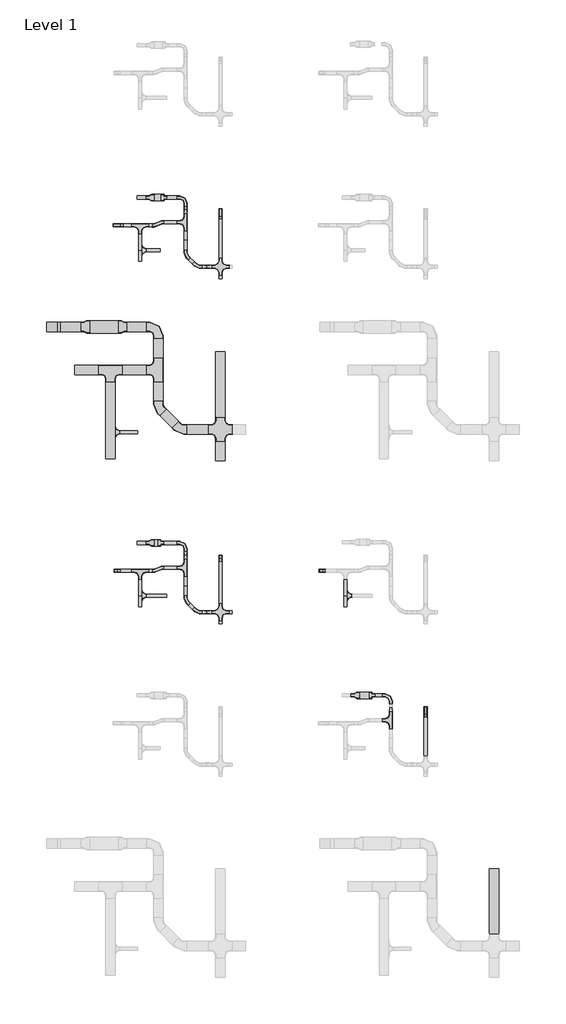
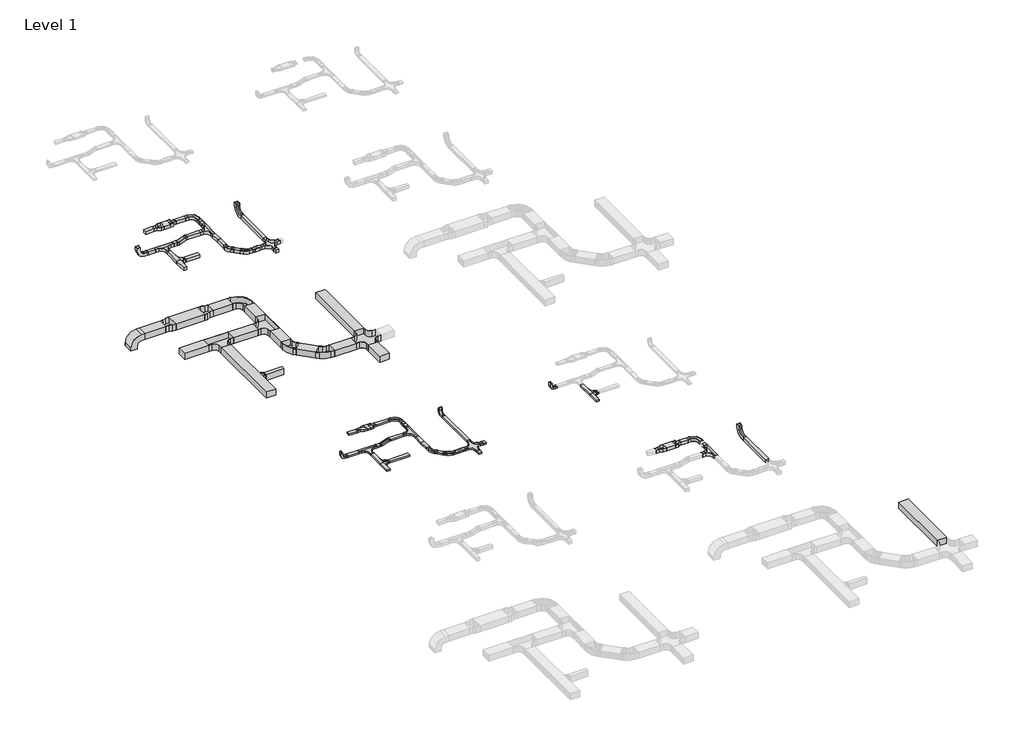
# One storey, part 2 of 7: 57 cable carrier segments, 46 cable carrier fittings.
"""IFC4 building model written with IfcOpenShell, lengths in millimetres."""

from ifc_helpers import new_model, si_unit, frame, origin, origin_with_axes, place, context, project, spatial, polyline, outline, extrude, transform, mapped, element, save
from components import cable_carrier_fitting_aaacfa07, cable_carrier_fitting_b0ef1419, cable_carrier_fitting_b06f5239, cable_carrier_fitting_c29a8226, cable_carrier_fitting_143960b7, cable_carrier_fitting_cc7a867a, cable_carrier_fitting_e87cdf85, cable_carrier_fitting_c2d22de5, cable_carrier_fitting_4de17e9c, cable_carrier_fitting_7e9f8960, cable_carrier_fitting_9eb58628, cable_carrier_fitting_43fa0a0a, cable_carrier_fitting_3d14474d, cable_carrier_fitting_1d79b922, cable_carrier_fitting_02b181c7, cable_carrier_fitting_d4cb8d73, cable_carrier_fitting_69659a00, cable_carrier_fitting_f591b558, cable_carrier_fitting_a9251f7c, cable_carrier_fitting_ed02f7b7, cable_carrier_fitting_6664680e, cable_carrier_fitting_91e97af7, cable_carrier_fitting_eaf42c59, cable_carrier_fitting_cb4cf4fc, cable_carrier_fitting_d9c8c3b4, cable_carrier_fitting_4019ad99, cable_carrier_fitting_a17deca8, rkh100_6825da00, rkh50_caab6538

model = new_model("IFC4")

# Units and contexts
model_context = context("Model", 3, world=origin())
ifc_project = project(units=[si_unit("LENGTHUNIT", "METRE", prefix="MILLI")], contexts=[model_context])

# Site, building, storey
site = spatial("IfcSite", under=ifc_project)
building = spatial("IfcBuilding", under=site)
storey = spatial("IfcBuildingStorey", under=building, Name="Level 1", Elevation=0.0)

# Cable carrier fittings
placement = place(None, origin())
cable_carrier_fitting_shape = cable_carrier_fitting_aaacfa07(model_context)
element("IfcCableCarrierFitting", 1, ObjectType="BAKS_Plate_connector : LZCH100", at=placement, inside=storey, context=model_context, shape_type="MappedRepresentation", body=[
    mapped(cable_carrier_fitting_shape, transform((-17370.1659964, 30949.0221963, 50.0), x_axis=(0.0, -1.0, 0.0), y_axis=(1.0, 0.0, 0.0), z_axis=(0.0, 0.0, 1.0))),
])
element("IfcCableCarrierFitting", 2, ObjectType="BAKS_Plate_connector : LZCH100", at=placement, inside=storey, context=model_context, shape_type="MappedRepresentation", body=[
    mapped(cable_carrier_fitting_shape, transform((-16681.6917019, 29108.6669458, 50.0), x_axis=(-1.0, 0.0, 0.0), y_axis=(0.0, -1.0, 0.0), z_axis=(0.0, 0.0, 1.0))),
])
cable_carrier_fitting_2_shape = cable_carrier_fitting_b0ef1419(model_context)
element("IfcCableCarrierFitting", 3, ObjectType="BAKS_Plate_connector : LZCH50", at=placement, inside=storey, context=model_context, shape_type="MappedRepresentation", body=[
    mapped(cable_carrier_fitting_2_shape, transform((-17370.1659964, 19849.0221963, 50.0), x_axis=(0.0, -1.0, 0.0), y_axis=(1.0, 0.0, 0.0), z_axis=(0.0, 0.0, 1.0))),
])
element("IfcCableCarrierFitting", 4, ObjectType="BAKS_Plate_connector : LZCH50", at=placement, inside=storey, context=model_context, shape_type="MappedRepresentation", body=[
    mapped(cable_carrier_fitting_2_shape, transform((-16681.6917019, 18008.6669458, 50.0), x_axis=(-1.0, 0.0, 0.0), y_axis=(0.0, -1.0, 0.0), z_axis=(0.0, 0.0, 1.0))),
])
cable_carrier_fitting_3_shape = cable_carrier_fitting_b06f5239(model_context)
element("IfcCableCarrierFitting", 5, ObjectType="BAKS_Tee_TKZD : TKZDPH200", at=placement, inside=storey, context=model_context, shape_type="MappedRepresentation", body=[
    mapped(cable_carrier_fitting_3_shape, transform((-19642.1461338, 23790.6717205, 0.0), x_axis=(0.0, 1.0, 0.0), y_axis=(-1.0, 0.0, 0.0), z_axis=(0.0, 0.0, 1.0))),
])
cable_carrier_fitting_4_shape = cable_carrier_fitting_c29a8226(model_context)
element("IfcCableCarrierFitting", 6, ObjectType="BAKS_Tee_TKZD : TKZDPH50", at=placement, inside=storey, context=model_context, shape_type="MappedRepresentation", body=[
    mapped(cable_carrier_fitting_4_shape, transform((-18785.25983, 18537.8311496, 50.0), x_axis=(0.0, 1.0, 0.0), y_axis=(-1.0, 0.0, 0.0), z_axis=(0.0, 0.0, 1.0))),
])
element("IfcCableCarrierFitting", 7, ObjectType="BAKS_Tee_TKZD : TKZDPH50", at=placement, inside=storey, context=model_context, shape_type="MappedRepresentation", body=[
    mapped(cable_carrier_fitting_4_shape, transform((-12185.25983, 18539.4574237, 50.0), x_axis=(0.0, 1.0, 0.0), y_axis=(-1.0, 0.0, 0.0), z_axis=(0.0, 0.0, 1.0))),
])
cable_carrier_fitting_5_shape = cable_carrier_fitting_143960b7(model_context)
element("IfcCableCarrierFitting", 8, ObjectType="BAKS_Tee_TKZD : TKZDPH100", at=placement, inside=storey, context=model_context, shape_type="MappedRepresentation", body=[
    mapped(cable_carrier_fitting_5_shape, transform((-18785.25983, 29636.7469669, 50.0), x_axis=(0.0, 1.0, 0.0), y_axis=(-1.0, 0.0, 0.0), z_axis=(0.0, 0.0, 1.0))),
])
cable_carrier_fitting_6_shape = cable_carrier_fitting_cc7a867a(model_context)
element("IfcCableCarrierFitting", 9, ObjectType="BAKS_Tee_TKZ : TKZPH50", at=placement, inside=storey, context=model_context, shape_type="MappedRepresentation", body=[
    mapped(cable_carrier_fitting_6_shape, transform((-18835.25983, 19336.0286879, 50.0), x_axis=(1.0, 0.0, 0.0), y_axis=(0.0, 1.0, 0.0), z_axis=(0.0, 0.0, 1.0))),
])
element("IfcCableCarrierFitting", 10, ObjectType="BAKS_Tee_TKZ : TKZPH50", at=placement, inside=storey, context=model_context, shape_type="MappedRepresentation", body=[
    mapped(cable_carrier_fitting_6_shape, transform((-17370.1659964, 19436.0286879, 50.0), x_axis=(0.0, -1.0, 0.0), y_axis=(1.0, 0.0, 0.0), z_axis=(0.0, 0.0, 1.0))),
])
cable_carrier_fitting_7_shape = cable_carrier_fitting_e87cdf85(model_context)
element("IfcCableCarrierFitting", 11, ObjectType="BAKS_Tee_TKZ : TKZPH100", at=placement, inside=storey, context=model_context, shape_type="MappedRepresentation", body=[
    mapped(cable_carrier_fitting_7_shape, transform((-18835.25983, 30436.0286879, 50.0), x_axis=(1.0, 0.0, 0.0), y_axis=(0.0, 1.0, 0.0), z_axis=(0.0, 0.0, 1.0))),
])
element("IfcCableCarrierFitting", 12, ObjectType="BAKS_Tee_TKZ : TKZPH100", at=placement, inside=storey, context=model_context, shape_type="MappedRepresentation", body=[
    mapped(cable_carrier_fitting_7_shape, transform((-17370.1659964, 30536.0286879, 50.0), x_axis=(0.0, -1.0, 0.0), y_axis=(1.0, 0.0, 0.0), z_axis=(0.0, 0.0, 1.0))),
])
cable_carrier_fitting_8_shape = cable_carrier_fitting_c2d22de5(model_context)
element("IfcCableCarrierFitting", 13, ObjectType="BAKS_Tee_TKZ : TKZCH100", at=placement, inside=storey, context=model_context, shape_type="MappedRepresentation", body=[
    mapped(cable_carrier_fitting_8_shape, transform((-10770.1659964, 14536.0286879, 50.0), x_axis=(0.0, -1.0, 0.0), y_axis=(1.0, 0.0, 0.0), z_axis=(0.0, 0.0, 1.0))),
])
cable_carrier_fitting_9_shape = cable_carrier_fitting_4de17e9c(model_context)
element("IfcCableCarrierFitting", 14, ObjectType="BAKS_Cross-section_CZKZ : CZKZPH50", at=placement, inside=storey, context=model_context, shape_type="MappedRepresentation", body=[
    mapped(cable_carrier_fitting_9_shape, transform((-16253.0791495, 18008.6669458, 50.0), x_axis=(-1.0, 0.0, 0.0), y_axis=(0.0, -1.0, 0.0), z_axis=(0.0, 0.0, 1.0))),
])
cable_carrier_fitting_10_shape = cable_carrier_fitting_7e9f8960(model_context)
element("IfcCableCarrierFitting", 15, ObjectType="BAKS_Cross-section_CZKZ : CZKZPH100", at=placement, inside=storey, context=model_context, shape_type="MappedRepresentation", body=[
    mapped(cable_carrier_fitting_10_shape, transform((-16253.0791495, 29108.6669458, 50.0), x_axis=(1.0, 0.0, 0.0), y_axis=(0.0, 1.0, 0.0), z_axis=(0.0, 0.0, 1.0))),
])
cable_carrier_fitting_11_shape = cable_carrier_fitting_9eb58628(model_context)
element("IfcCableCarrierFitting", 16, ObjectType="BAKS_Reduction-symmetrical_RKZ : RKZPH50", at=placement, inside=storey, context=model_context, shape_type="MappedRepresentation", body=[
    mapped(cable_carrier_fitting_11_shape, transform((-18365.6659964, 20232.0157047, 50.0), x_axis=(-1.0, 0.0, 0.0), y_axis=(0.0, -1.0, 0.0), z_axis=(0.0, 0.0, 1.0))),
])
cable_carrier_fitting_12_shape = cable_carrier_fitting_43fa0a0a(model_context)
element("IfcCableCarrierFitting", 17, ObjectType="BAKS_Reduction-symmetrical_RKZ : RKZPH100", at=placement, inside=storey, context=model_context, shape_type="MappedRepresentation", body=[
    mapped(cable_carrier_fitting_12_shape, transform((-18365.6659964, 31332.0157047, 50.0), x_axis=(-1.0, 0.0, 0.0), y_axis=(0.0, -1.0, 0.0), z_axis=(0.0, 0.0, 1.0))),
])
element("IfcCableCarrierFitting", 18, ObjectType="BAKS_Reduction-symmetrical_RKZ : RKZCH100", at=placement, inside=storey, context=model_context, shape_type="MappedRepresentation", body=[
    mapped(cable_carrier_fitting_12_shape, transform((-11765.6659964, 15332.0157047, 50.0), x_axis=(-1.0, 0.0, 0.0), y_axis=(0.0, -1.0, 0.0), z_axis=(0.0, 0.0, 1.0))),
])
cable_carrier_fitting_13_shape = cable_carrier_fitting_3d14474d(model_context)
element("IfcCableCarrierFitting", 19, ObjectType="BAKS_Bypass_horizontal_left_OPZL : OPZLPH50", at=placement, inside=storey, context=model_context, shape_type="MappedRepresentation", body=[
    mapped(cable_carrier_fitting_13_shape, transform((-18255.25983, 19386.0286879, 25.0), x_axis=(1.0, 0.0, 0.0), y_axis=(0.0, 1.0, 0.0), z_axis=(0.0, 0.0, 1.0))),
])
cable_carrier_fitting_14_shape = cable_carrier_fitting_1d79b922(model_context)
element("IfcCableCarrierFitting", 20, ObjectType="BAKS_Bypass_horizontal_left_OPZL : OPZLPH100", at=placement, inside=storey, context=model_context, shape_type="MappedRepresentation", body=[
    mapped(cable_carrier_fitting_14_shape, transform((-18255.25983, 30486.0286879, 0.0), x_axis=(1.0, 0.0, 0.0), y_axis=(0.0, 1.0, 0.0), z_axis=(0.0, 0.0, 1.0))),
])
element("IfcCableCarrierFitting", 21, ObjectType="BAKS_Bypass_horizontal_left_OPZL : OPZLPH100", at=placement, inside=storey, context=model_context, shape_type="MappedRepresentation", body=[
    mapped(cable_carrier_fitting_14_shape, transform((-18255.25983, 30484.9445052, 0.0), x_axis=(1.0, 0.0, 0.0), y_axis=(0.0, 1.0, 0.0), z_axis=(0.0, 0.0, 1.0))),
])
cable_carrier_fitting_15_shape = cable_carrier_fitting_02b181c7(model_context)
element("IfcCableCarrierFitting", 22, ObjectType="BAKS_Elbow_KKZ : KKZP/KKZMP...H50", at=placement, inside=storey, context=model_context, shape_type="MappedRepresentation", body=[
    mapped(cable_carrier_fitting_15_shape, transform((-16999.0048312, 18008.6669458, 50.0), x_axis=(0.7071067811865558, -0.7071067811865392, 0.0), y_axis=(0.7071067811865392, 0.7071067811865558, 0.0), z_axis=(0.0, 0.0, 1.0))),
])
element("IfcCableCarrierFitting", 23, ObjectType="BAKS_Elbow_KKZ : KKZP/KKZMP...H50", at=placement, inside=storey, context=model_context, shape_type="MappedRepresentation", body=[
    mapped(cable_carrier_fitting_15_shape, transform((-17370.1659964, 18379.8281111, 50.0), x_axis=(0.0, -1.0, 0.0), y_axis=(1.0, 0.0, 0.0), z_axis=(0.0, 0.0, 1.0))),
])
cable_carrier_fitting_16_shape = cable_carrier_fitting_d4cb8d73(model_context)
element("IfcCableCarrierFitting", 24, ObjectType="BAKS_Elbow_KKZ : KKZP/KKZMP...H100", at=placement, inside=storey, context=model_context, shape_type="MappedRepresentation", body=[
    mapped(cable_carrier_fitting_16_shape, transform((-16999.0048312, 29108.6669458, 50.0), x_axis=(0.7071067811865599, -0.7071067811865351, 0.0), y_axis=(0.7071067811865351, 0.7071067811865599, 0.0), z_axis=(0.0, 0.0, 1.0))),
])
element("IfcCableCarrierFitting", 25, ObjectType="BAKS_Elbow_KKZ : KKZP/KKZMP...H100", at=placement, inside=storey, context=model_context, shape_type="MappedRepresentation", body=[
    mapped(cable_carrier_fitting_16_shape, transform((-17370.1659964, 29479.8281111, 50.0), x_axis=(0.0, -1.0, 0.0), y_axis=(1.0, 0.0, 0.0), z_axis=(0.0, 0.0, 1.0))),
])
cable_carrier_fitting_17_shape = cable_carrier_fitting_69659a00(model_context)
element("IfcCableCarrierFitting", 26, ObjectType="BAKS_Elbow_KKZ : KKZC/KKZMC...H100", at=placement, inside=storey, context=model_context, shape_type="MappedRepresentation", body=[
    mapped(cable_carrier_fitting_17_shape, transform((-10770.1659964, 15332.0157047, 50.0), x_axis=(0.0, 1.0, 0.0), y_axis=(-1.0, 0.0, 0.0), z_axis=(0.0, 0.0, 1.0))),
])
element("IfcCableCarrierFitting", 27, ObjectType="BAKS_Elbow_KKZ : KKZP/KKZMP...H100", at=placement, inside=storey, context=model_context, shape_type="MappedRepresentation", body=[
    mapped(cable_carrier_fitting_17_shape, transform((-17370.1659964, 31332.0157047, 50.0), x_axis=(0.0, 1.0, 0.0), y_axis=(-1.0, 0.0, 0.0), z_axis=(0.0, 0.0, 1.0))),
])
cable_carrier_fitting_18_shape = cable_carrier_fitting_f591b558(model_context)
element("IfcCableCarrierFitting", 28, ObjectType="BAKS_Elbow_KKZ : KKZP/KKZMP...H50", at=placement, inside=storey, context=model_context, shape_type="MappedRepresentation", body=[
    mapped(cable_carrier_fitting_18_shape, transform((-17370.1659964, 20232.0157047, 50.0), x_axis=(0.0, 1.0, 0.0), y_axis=(-1.0, 0.0, 0.0), z_axis=(0.0, 0.0, 1.0))),
])
cable_carrier_fitting_19_shape = cable_carrier_fitting_a9251f7c(model_context)
element("IfcCableCarrierFitting", 29, ObjectType="BAKS_Vertical_bend_int : LZWPH50/LZWMPH50", at=placement, inside=storey, context=model_context, shape_type="MappedRepresentation", body=[
    mapped(cable_carrier_fitting_19_shape, transform((-19652.5998175, 19336.0286879, 50.0), x_axis=(-1.0, 0.0, 0.0), y_axis=(0.0, 0.0, 1.0), z_axis=(0.0, 1.0, 0.0))),
])
element("IfcCableCarrierFitting", 30, ObjectType="BAKS_Vertical_bend_int : LZWPH50/LZWMPH50", at=placement, inside=storey, context=model_context, shape_type="MappedRepresentation", body=[
    mapped(cable_carrier_fitting_19_shape, transform((-16253.0791495, 19818.5286879, 50.0), x_axis=(0.0, 1.0, 0.0), y_axis=(0.0, 0.0, 1.0), z_axis=(1.0, 0.0, 0.0))),
])
element("IfcCableCarrierFitting", 31, ObjectType="BAKS_Vertical_bend_int : LZWCH50/LZWMCH50", at=placement, inside=storey, context=model_context, shape_type="MappedRepresentation", body=[
    mapped(cable_carrier_fitting_19_shape, transform((-13052.5998175, 19336.0286879, 50.0), x_axis=(-1.0, 0.0, 0.0), y_axis=(0.0, 0.0, 1.0), z_axis=(0.0, 1.0, 0.0))),
])
cable_carrier_fitting_20_shape = cable_carrier_fitting_ed02f7b7(model_context)
element("IfcCableCarrierFitting", 32, ObjectType="BAKS_Vertical_bend_int : LZWPH100/LZWMPH100", at=placement, inside=storey, context=model_context, shape_type="MappedRepresentation", body=[
    mapped(cable_carrier_fitting_20_shape, transform((-19652.5998175, 30436.0286879, 50.0), x_axis=(-1.0, 0.0, 0.0), y_axis=(0.0, 0.0, 1.0), z_axis=(0.0, 1.0, 0.0))),
])
element("IfcCableCarrierFitting", 33, ObjectType="BAKS_Vertical_bend_int : LZWPH100/LZWMPH100", at=placement, inside=storey, context=model_context, shape_type="MappedRepresentation", body=[
    mapped(cable_carrier_fitting_20_shape, transform((-16253.0791495, 30918.5286879, 50.0), x_axis=(0.0, 1.0, 0.0), y_axis=(0.0, 0.0, 1.0), z_axis=(1.0, 0.0, 0.0))),
])
element("IfcCableCarrierFitting", 34, ObjectType="BAKS_Vertical_bend_int : LZWCH100/LZWMCH100", at=placement, inside=storey, context=model_context, shape_type="MappedRepresentation", body=[
    mapped(cable_carrier_fitting_20_shape, transform((-9653.0791495, 14918.5286879, 50.0), x_axis=(0.0, 1.0, 0.0), y_axis=(0.0, 0.0, 1.0), z_axis=(1.0, 0.0, 0.0))),
])
cable_carrier_fitting_21_shape = cable_carrier_fitting_6664680e(model_context)
element("IfcCableCarrierFitting", 35, ObjectType="BAKS_Cross-section_CZKZ : CZKZPH200", at=placement, inside=storey, context=model_context, shape_type="MappedRepresentation", body=[
    mapped(cable_carrier_fitting_21_shape, transform((-16253.0791495, 23877.2563463, 50.0), x_axis=(1.0, 0.0, 0.0), y_axis=(0.0, 1.0, 0.0), z_axis=(0.0, 0.0, 1.0))),
])
cable_carrier_fitting_22_shape = cable_carrier_fitting_91e97af7(model_context)
element("IfcCableCarrierFitting", 36, ObjectType="BAKS_Elbow_KKZ : KKZP/KKZMP...H200", at=placement, inside=storey, context=model_context, shape_type="MappedRepresentation", body=[
    mapped(cable_carrier_fitting_22_shape, transform((-17547.1134218, 23877.2563463, 50.0), x_axis=(0.7071067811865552, -0.7071067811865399, 0.0), y_axis=(0.7071067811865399, 0.7071067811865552, 0.0), z_axis=(0.0, 0.0, 1.0))),
])
element("IfcCableCarrierFitting", 37, ObjectType="BAKS_Elbow_KKZ : KKZP/KKZMP...H200", at=placement, inside=storey, context=model_context, shape_type="MappedRepresentation", body=[
    mapped(cable_carrier_fitting_22_shape, transform((-18247.1461338, 24577.2890583, 50.0), x_axis=(0.0, -1.0, 0.0), y_axis=(1.0, 0.0, 0.0), z_axis=(0.0, 0.0, 1.0))),
])
cable_carrier_fitting_23_shape = cable_carrier_fitting_eaf42c59(model_context)
element("IfcCableCarrierFitting", 38, ObjectType="BAKS_Elbow_KKZ : KKZP/KKZMP...H200", at=placement, inside=storey, context=model_context, shape_type="MappedRepresentation", body=[
    mapped(cable_carrier_fitting_23_shape, transform((-18247.1461338, 27177.2890583, 50.0), x_axis=(0.0, 1.0, 0.0), y_axis=(-1.0, 0.0, 0.0), z_axis=(0.0, 0.0, 1.0))),
])
cable_carrier_fitting_24_shape = cable_carrier_fitting_cb4cf4fc(model_context)
element("IfcCableCarrierFitting", 39, ObjectType="BAKS_Reduction-symmetrical_RKZ : RKZPH200", at=placement, inside=storey, context=model_context, shape_type="MappedRepresentation", body=[
    mapped(cable_carrier_fitting_24_shape, transform((-19247.1461338, 27177.2890583, 50.0), x_axis=(-1.0, 0.0, 0.0), y_axis=(0.0, -1.0, 0.0), z_axis=(0.0, 0.0, 1.0))),
])
cable_carrier_fitting_25_shape = cable_carrier_fitting_d9c8c3b4(model_context)
element("IfcCableCarrierFitting", 40, ObjectType="BAKS_Reduction-symmetrical_RKZ : RKZPH200", at=placement, inside=storey, context=model_context, shape_type="MappedRepresentation", body=[
    mapped(cable_carrier_fitting_25_shape, transform((-20447.1461338, 27177.2890583, 50.0), x_axis=(-1.0, 0.0, 0.0), y_axis=(0.0, -1.0, 0.0), z_axis=(0.0, 0.0, 1.0))),
])
cable_carrier_fitting_26_shape = cable_carrier_fitting_4019ad99(model_context)
element("IfcCableCarrierFitting", 41, ObjectType="BAKS_Vertical_bend_int : LZWPH200/LZWMPH200", at=placement, inside=storey, context=model_context, shape_type="MappedRepresentation", body=[
    mapped(cable_carrier_fitting_26_shape, transform((-21747.1461338, 27177.2890583, 50.0), x_axis=(-1.0, 0.0, 0.0), y_axis=(0.0, 0.0, -1.0), z_axis=(0.0, -1.0, 0.0))),
])
cable_carrier_fitting_27_shape = cable_carrier_fitting_a17deca8(model_context)
element("IfcCableCarrierFitting", 42, ObjectType="BAKS_Tee_TKZ : TKZPH200", at=placement, inside=storey, context=model_context, shape_type="MappedRepresentation", body=[
    mapped(cable_carrier_fitting_27_shape, transform((-18247.1461338, 25792.3500248, 50.0), x_axis=(0.0, -1.0, 0.0), y_axis=(1.0, 0.0, 0.0), z_axis=(0.0, 0.0, 1.0))),
])
element("IfcCableCarrierFitting", 43, ObjectType="BAKS_Tee_TKZ : TKZPH200", at=placement, inside=storey, context=model_context, shape_type="MappedRepresentation", body=[
    mapped(cable_carrier_fitting_27_shape, transform((-19792.1461338, 25792.3500248, 50.0), x_axis=(1.0, 0.0, 0.0), y_axis=(0.0, 1.0, 0.0), z_axis=(0.0, 0.0, 1.0))),
])
rkh100_shape = rkh100_6825da00(model_context)
element("IfcCableCarrierFitting", 44, ObjectType="BAKS_Reduction-angular_RK : RKH100", at=placement, inside=storey, context=model_context, shape_type="MappedRepresentation", body=[
    mapped(rkh100_shape, transform((-18172.4300048, 31332.0157047, 50.0), x_axis=(1.0, 0.0, 0.0), y_axis=(0.0, 1.0, 0.0), z_axis=(0.0, 0.0, 1.0))),
])
element("IfcCableCarrierFitting", 45, ObjectType="BAKS_Reduction-angular_RK : RKH100", at=placement, inside=storey, context=model_context, shape_type="MappedRepresentation", body=[
    mapped(rkh100_shape, transform((-11484.4105767, 15332.0157047, 50.0), x_axis=(1.0, 0.0, 0.0), y_axis=(0.0, 1.0, 0.0), z_axis=(0.0, 0.0, 1.0))),
])
rkh50_shape = rkh50_caab6538(model_context)
element("IfcCableCarrierFitting", 46, ObjectType="BAKS_Reduction-angular_RK : RKH50", at=placement, inside=storey, context=model_context, shape_type="MappedRepresentation", body=[
    mapped(rkh50_shape, transform((-18271.4573248, 20232.0157047, 50.0), x_axis=(1.0, 0.0, 0.0), y_axis=(0.0, 1.0, 0.0), z_axis=(0.0, 0.0, 1.0))),
])

# Cable carrier segments
element("IfcCableCarrierSegment", 47, ObjectType="BAKS - Reinforced cable tray H100 (KZWP)", at=placement, inside=storey, context=model_context, shape_type="SweptSolid", body=[
    extrude(outline(polyline([(-18665.6659964, 31382.0157047), (-18665.6659964, 31282.0157047), (-18924.6659964, 31282.0157047), (-18924.6659964, 31382.0157047), (-18665.6659964, 31382.0157047)])), origin_with_axes(), (0.0, 0.0, 1.0), 100.0),
])
element("IfcCableCarrierSegment", 48, ObjectType="BAKS - Reinforced cable tray H100 (KZWP)", at=placement, inside=storey, context=model_context, shape_type="SweptSolid", body=[
    extrude(outline(polyline([(-18365.6659964, 31232.0157047), (-18365.6659964, 31432.0157047), (-18172.4300048, 31432.0157047), (-18172.4300048, 31232.0157047), (-18365.6659964, 31232.0157047)])), origin_with_axes(), (0.0, 0.0, 1.0), 100.0),
])
element("IfcCableCarrierSegment", 49, ObjectType="BAKS - Reinforced cable tray H100 (KZWP)", at=placement, inside=storey, context=model_context, shape_type="SweptSolid", body=[
    extrude(outline(polyline([(-18445.25983, 30486.0286879), (-18445.25983, 30386.0286879), (-18545.25983, 30386.0286879), (-18545.25983, 30486.0286879), (-18445.25983, 30486.0286879)])), origin_with_axes(), (0.0, 0.0, 1.0), 100.0),
])
element("IfcCableCarrierSegment", 50, ObjectType="BAKS - Reinforced cable tray H100 (KZWP)", at=placement, inside=storey, context=model_context, shape_type="SweptSolid", body=[
    extrude(outline(polyline([(-19362.5998175, 30386.0286879), (-19362.5998175, 30486.0286879), (-19125.25983, 30486.0286879), (-19125.25983, 30386.0286879), (-19362.5998175, 30386.0286879)])), origin_with_axes(), (0.0, 0.0, 1.0), 100.0),
])
element("IfcCableCarrierSegment", 51, ObjectType="BAKS - Reinforced cable tray H100 (KZWP)", at=placement, inside=storey, context=model_context, shape_type="SweptSolid", body=[
    extrude(outline(polyline([(-18885.25983, 30146.0286879), (-18785.25983, 30146.0286879), (-18785.25983, 29637.2890583), (-18885.25983, 29637.2890583), (-18885.25983, 30146.0286879)])), origin_with_axes(), (0.0, 0.0, 1.0), 100.0),
])
element("IfcCableCarrierSegment", 52, ObjectType="BAKS - Reinforced cable tray H100 (KZWP)", at=placement, inside=storey, context=model_context, shape_type="SweptSolid", body=[
    extrude(outline(polyline([(-18885.25983, 29636.2048756), (-18785.25983, 29636.2048756), (-18785.25983, 29277.2890583), (-18885.25983, 29277.2890583), (-18885.25983, 29636.2048756)])), origin_with_axes(), (0.0, 0.0, 1.0), 100.0),
])
element("IfcCableCarrierSegment", 53, ObjectType="BAKS - Reinforced cable tray with welded connector H50 (KZLWP)", at=placement, inside=storey, context=model_context, shape_type="SweptSolid", body=[
    extrude(outline(polyline([(-18271.4573248, 20332.0157047), (-18271.4573248, 20132.0157047), (-18365.6659964, 20132.0157047), (-18365.6659964, 20332.0157047), (-18271.4573248, 20332.0157047)])), frame((0.0, 0.0, 25.0), z_axis=(0.0, 0.0, 1.0), x_axis=(1.0, 0.0, 0.0)), (0.0, 0.0, 1.0), 50.0),
])
element("IfcCableCarrierSegment", 54, ObjectType="BAKS - Reinforced cable tray with welded connector H50 (KZLWP)", at=placement, inside=storey, context=model_context, shape_type="SweptSolid", body=[
    extrude(outline(polyline([(-18665.6659964, 20282.0157047), (-18665.6659964, 20182.0157047), (-18924.6659964, 20182.0157047), (-18924.6659964, 20282.0157047), (-18665.6659964, 20282.0157047)])), frame((0.0, 0.0, 25.0), z_axis=(0.0, 0.0, 1.0), x_axis=(1.0, 0.0, 0.0)), (0.0, 0.0, 1.0), 50.0),
])
element("IfcCableCarrierSegment", 55, ObjectType="BAKS - Reinforced cable tray with welded connector H50 (KZLWP)", at=placement, inside=storey, context=model_context, shape_type="SweptSolid", body=[
    extrude(outline(polyline([(-18445.25983, 19386.0286879), (-18445.25983, 19286.0286879), (-18545.25983, 19286.0286879), (-18545.25983, 19386.0286879), (-18445.25983, 19386.0286879)])), frame((0.0, 0.0, 25.0), z_axis=(0.0, 0.0, 1.0), x_axis=(1.0, 0.0, 0.0)), (0.0, 0.0, 1.0), 50.0),
])
element("IfcCableCarrierSegment", 56, ObjectType="BAKS - Reinforced cable tray with welded connector H50 (KZLWP)", at=placement, inside=storey, context=model_context, shape_type="SweptSolid", body=[
    extrude(outline(polyline([(-18885.25983, 19046.0286879), (-18785.25983, 19046.0286879), (-18785.25983, 18538.373241), (-18885.25983, 18538.373241), (-18885.25983, 19046.0286879)])), frame((0.0, 0.0, 25.0), z_axis=(0.0, 0.0, 1.0), x_axis=(1.0, 0.0, 0.0)), (0.0, 0.0, 1.0), 50.0),
])
element("IfcCableCarrierSegment", 57, ObjectType="BAKS - Reinforced cable tray with welded connector H50 (KZLWP)", at=placement, inside=storey, context=model_context, shape_type="SweptSolid", body=[
    extrude(outline(polyline([(-18885.25983, 18537.2890583), (-18785.25983, 18537.2890583), (-18785.25983, 18177.2890583), (-18885.25983, 18177.2890583), (-18885.25983, 18537.2890583)])), frame((0.0, 0.0, 25.0), z_axis=(0.0, 0.0, 1.0), x_axis=(1.0, 0.0, 0.0)), (0.0, 0.0, 1.0), 50.0),
])
element("IfcCableCarrierSegment", 58, ObjectType="BAKS - Reinforced cable tray with welded connector H50 (KZLWP)", at=placement, inside=storey, context=model_context, shape_type="SweptSolid", body=[
    extrude(outline(polyline([(-19125.25983, 19386.0286879), (-19125.25983, 19286.0286879), (-19467.5998175, 19286.0286879), (-19467.5998175, 19386.0286879), (-19125.25983, 19386.0286879)])), frame((0.0, 0.0, 25.0), z_axis=(0.0, 0.0, 1.0), x_axis=(1.0, 0.0, 0.0)), (0.0, 0.0, 1.0), 50.0),
])
element("IfcCableCarrierSegment", 59, ObjectType="BAKS - Reinforced cable tray with welded connector H50 (KZLWC)", at=placement, inside=storey, context=model_context, shape_type="SweptSolid", body=[
    extrude(outline(polyline([(-12285.25983, 19046.0286879), (-12185.25983, 19046.0286879), (-12185.25983, 18539.999515), (-12285.25983, 18539.999515), (-12285.25983, 19046.0286879)])), frame((0.0, 0.0, 25.0), z_axis=(0.0, 0.0, 1.0), x_axis=(1.0, 0.0, 0.0)), (0.0, 0.0, 1.0), 50.0),
])
element("IfcCableCarrierSegment", 60, ObjectType="BAKS - Reinforced cable tray with welded connector H50 (KZLWC)", at=placement, inside=storey, context=model_context, shape_type="SweptSolid", body=[
    extrude(outline(polyline([(-12285.25983, 18538.9153323), (-12185.25983, 18538.9153323), (-12185.25983, 18177.2890583), (-12285.25983, 18177.2890583), (-12285.25983, 18538.9153323)])), frame((0.0, 0.0, 25.0), z_axis=(0.0, 0.0, 1.0), x_axis=(1.0, 0.0, 0.0)), (0.0, 0.0, 1.0), 50.0),
])
element("IfcCableCarrierSegment", 61, ObjectType="BAKS - Reinforced cable tray with welded connector H100 (KZLWC)", at=placement, inside=storey, context=model_context, shape_type="SweptSolid", body=[
    extrude(outline(polyline([(-11765.6659964, 15232.0157047), (-11765.6659964, 15432.0157047), (-11484.4105767, 15432.0157047), (-11484.4105767, 15232.0157047), (-11765.6659964, 15232.0157047)])), origin_with_axes(), (0.0, 0.0, 1.0), 100.0),
])
element("IfcCableCarrierSegment", 62, ObjectType="BAKS - Reinforced cable tray H100 (KZWP)", at=placement, inside=storey, context=model_context, shape_type="SweptSolid", body=[
    extrude(outline(polyline([(-17420.1659964, 30246.0286879), (-17320.1659964, 30246.0286879), (-17320.1659964, 29953.2786879), (-17420.1659964, 29953.2786879), (-17420.1659964, 30246.0286879)])), origin_with_axes(), (0.0, 0.0, 1.0), 100.0),
])
element("IfcCableCarrierSegment", 63, ObjectType="BAKS - Reinforced cable tray H100 (KZWP)", at=placement, inside=storey, context=model_context, shape_type="SweptSolid", body=[
    extrude(outline(polyline([(-16543.0791495, 29158.6669458), (-16543.0791495, 29058.6669458), (-16681.6917019, 29058.6669458), (-16681.6917019, 29158.6669458), (-16543.0791495, 29158.6669458)])), origin_with_axes(), (0.0, 0.0, 1.0), 100.0),
])
element("IfcCableCarrierSegment", 64, ObjectType="BAKS - Reinforced cable tray H100 (KZWP)", at=placement, inside=storey, context=model_context, shape_type="SweptSolid", body=[
    extrude(outline(polyline([(-16682.6917019, 29158.6669458), (-16682.6917019, 29058.6669458), (-16820.3042544, 29058.6669458), (-16820.3042544, 29158.6669458), (-16682.6917019, 29158.6669458)])), origin_with_axes(), (0.0, 0.0, 1.0), 100.0),
])
element("IfcCableCarrierSegment", 65, ObjectType="BAKS - Reinforced cable tray H100 (KZWP)", at=placement, inside=storey, context=model_context, shape_type="SweptSolid", body=[
    extrude(outline(polyline([(-17090.0098818, 29270.3826746), (-17160.72056, 29199.6719965), (-17279.1609458, 29318.1123823), (-17208.4502677, 29388.8230604), (-17090.0098818, 29270.3826746)])), origin_with_axes(), (0.0, 0.0, 1.0), 100.0),
])
element("IfcCableCarrierSegment", 66, ObjectType="BAKS - Reinforced cable tray H100 (KZWP)", at=placement, inside=storey, context=model_context, shape_type="SweptSolid", body=[
    extrude(outline(polyline([(-17320.1659964, 29658.5286879), (-17420.1659964, 29658.5286879), (-17420.1659964, 29952.2786879), (-17320.1659964, 29952.2786879), (-17320.1659964, 29658.5286879)])), origin_with_axes(), (0.0, 0.0, 1.0), 100.0),
])
element("IfcCableCarrierSegment", 67, ObjectType="BAKS - Reinforced cable tray H100 (KZWP)", at=placement, inside=storey, context=model_context, shape_type="SweptSolid", body=[
    extrude(outline(polyline([(-17962.4300048, 31282.0157047), (-17962.4300048, 31382.0157047), (-17660.1659964, 31382.0157047), (-17660.1659964, 31282.0157047), (-17962.4300048, 31282.0157047)])), origin_with_axes(), (0.0, 0.0, 1.0), 100.0),
])
element("IfcCableCarrierSegment", 68, ObjectType="BAKS - Reinforced cable tray H100 (KZWP)", at=placement, inside=storey, context=model_context, shape_type="SweptSolid", body=[
    extrude(outline(polyline([(-17420.1659964, 31042.0157047), (-17320.1659964, 31042.0157047), (-17320.1659964, 30949.0221963), (-17420.1659964, 30949.0221963), (-17420.1659964, 31042.0157047)])), origin_with_axes(), (0.0, 0.0, 1.0), 100.0),
])
element("IfcCableCarrierSegment", 69, ObjectType="BAKS - Reinforced cable tray H100 (KZWP)", at=placement, inside=storey, context=model_context, shape_type="SweptSolid", body=[
    extrude(outline(polyline([(-18065.25983, 30486.0286879), (-18065.25983, 30586.0286879), (-17660.1659964, 30586.0286879), (-17660.1659964, 30486.0286879), (-18065.25983, 30486.0286879)])), origin_with_axes(), (0.0, 0.0, 1.0), 100.0),
])
element("IfcCableCarrierSegment", 70, ObjectType="BAKS - Reinforced cable tray H100 (KZWP)", at=placement, inside=storey, context=model_context, shape_type="SweptSolid", body=[
    extrude(outline(polyline([(-16203.0791495, 28728.6669458), (-16303.0791495, 28728.6669458), (-16303.0791495, 28818.6669458), (-16203.0791495, 28818.6669458), (-16203.0791495, 28728.6669458)])), origin_with_axes(), (0.0, 0.0, 1.0), 100.0),
])
element("IfcCableCarrierSegment", 71, ObjectType="BAKS - Reinforced cable tray H100 (KZWP)", at=placement, inside=storey, context=model_context, shape_type="SweptSolid", body=[
    extrude(outline(polyline([(-17320.1659964, 30826.0286879), (-17420.1659964, 30826.0286879), (-17420.1659964, 30948.0221963), (-17320.1659964, 30948.0221963), (-17320.1659964, 30826.0286879)])), origin_with_axes(), (0.0, 0.0, 1.0), 100.0),
])
element("IfcCableCarrierSegment", 72, ObjectType="BAKS - Reinforced cable tray with welded connector H50 (KZLWP)", at=placement, inside=storey, context=model_context, shape_type="SweptSolid", body=[
    extrude(outline(polyline([(-17420.1659964, 19146.0286879), (-17320.1659964, 19146.0286879), (-17320.1659964, 18853.2786879), (-17420.1659964, 18853.2786879), (-17420.1659964, 19146.0286879)])), frame((0.0, 0.0, 25.0), z_axis=(0.0, 0.0, 1.0), x_axis=(1.0, 0.0, 0.0)), (0.0, 0.0, 1.0), 50.0),
])
element("IfcCableCarrierSegment", 73, ObjectType="BAKS - Reinforced cable tray with welded connector H50 (KZLWP)", at=placement, inside=storey, context=model_context, shape_type="SweptSolid", body=[
    extrude(outline(polyline([(-16543.0791495, 18058.6669458), (-16543.0791495, 17958.6669458), (-16681.6917019, 17958.6669458), (-16681.6917019, 18058.6669458), (-16543.0791495, 18058.6669458)])), frame((0.0, 0.0, 25.0), z_axis=(0.0, 0.0, 1.0), x_axis=(1.0, 0.0, 0.0)), (0.0, 0.0, 1.0), 50.0),
])
element("IfcCableCarrierSegment", 74, ObjectType="BAKS - Reinforced cable tray with welded connector H50 (KZLWP)", at=placement, inside=storey, context=model_context, shape_type="SweptSolid", body=[
    extrude(outline(polyline([(-16682.6917019, 18058.6669458), (-16682.6917019, 17958.6669458), (-16820.3042544, 17958.6669458), (-16820.3042544, 18058.6669458), (-16682.6917019, 18058.6669458)])), frame((0.0, 0.0, 25.0), z_axis=(0.0, 0.0, 1.0), x_axis=(1.0, 0.0, 0.0)), (0.0, 0.0, 1.0), 50.0),
])
element("IfcCableCarrierSegment", 75, ObjectType="BAKS - Reinforced cable tray with welded connector H50 (KZLWP)", at=placement, inside=storey, context=model_context, shape_type="SweptSolid", body=[
    extrude(outline(polyline([(-17090.0098818, 18170.3826746), (-17160.72056, 18099.6719965), (-17279.1609458, 18218.1123823), (-17208.4502677, 18288.8230604), (-17090.0098818, 18170.3826746)])), frame((0.0, 0.0, 25.0), z_axis=(0.0, 0.0, 1.0), x_axis=(1.0, 0.0, 0.0)), (0.0, 0.0, 1.0), 50.0),
])
element("IfcCableCarrierSegment", 76, ObjectType="BAKS - Reinforced cable tray with welded connector H50 (KZLWP)", at=placement, inside=storey, context=model_context, shape_type="SweptSolid", body=[
    extrude(outline(polyline([(-17320.1659964, 18558.5286879), (-17420.1659964, 18558.5286879), (-17420.1659964, 18852.2786879), (-17320.1659964, 18852.2786879), (-17320.1659964, 18558.5286879)])), frame((0.0, 0.0, 25.0), z_axis=(0.0, 0.0, 1.0), x_axis=(1.0, 0.0, 0.0)), (0.0, 0.0, 1.0), 50.0),
])
element("IfcCableCarrierSegment", 77, ObjectType="BAKS - Reinforced cable tray with welded connector H50 (KZLWP)", at=placement, inside=storey, context=model_context, shape_type="SweptSolid", body=[
    extrude(outline(polyline([(-16303.0791495, 19633.5286879), (-16203.0791495, 19633.5286879), (-16203.0791495, 18298.6669458), (-16303.0791495, 18298.6669458), (-16303.0791495, 19633.5286879)])), frame((0.0, 0.0, 25.0), z_axis=(0.0, 0.0, 1.0), x_axis=(1.0, 0.0, 0.0)), (0.0, 0.0, 1.0), 50.0),
])
element("IfcCableCarrierSegment", 78, ObjectType="BAKS - Reinforced cable tray with welded connector H50 (KZLWP)", at=placement, inside=storey, context=model_context, shape_type="SweptSolid", body=[
    extrude(outline(polyline([(-18061.4573248, 20182.0157047), (-18061.4573248, 20282.0157047), (-17660.1659964, 20282.0157047), (-17660.1659964, 20182.0157047), (-18061.4573248, 20182.0157047)])), frame((0.0, 0.0, 25.0), z_axis=(0.0, 0.0, 1.0), x_axis=(1.0, 0.0, 0.0)), (0.0, 0.0, 1.0), 50.0),
])
element("IfcCableCarrierSegment", 79, ObjectType="BAKS - Reinforced cable tray with welded connector H50 (KZLWP)", at=placement, inside=storey, context=model_context, shape_type="SweptSolid", body=[
    extrude(outline(polyline([(-17420.1659964, 19942.0157047), (-17320.1659964, 19942.0157047), (-17320.1659964, 19849.0221963), (-17420.1659964, 19849.0221963), (-17420.1659964, 19942.0157047)])), frame((0.0, 0.0, 25.0), z_axis=(0.0, 0.0, 1.0), x_axis=(1.0, 0.0, 0.0)), (0.0, 0.0, 1.0), 50.0),
])
element("IfcCableCarrierSegment", 80, ObjectType="BAKS - Reinforced cable tray with welded connector H50 (KZLWP)", at=placement, inside=storey, context=model_context, shape_type="SweptSolid", body=[
    extrude(outline(polyline([(-18065.25983, 19386.0286879), (-18065.25983, 19486.0286879), (-17660.1659964, 19486.0286879), (-17660.1659964, 19386.0286879), (-18065.25983, 19386.0286879)])), frame((0.0, 0.0, 25.0), z_axis=(0.0, 0.0, 1.0), x_axis=(1.0, 0.0, 0.0)), (0.0, 0.0, 1.0), 50.0),
])
element("IfcCableCarrierSegment", 81, ObjectType="BAKS - Reinforced cable tray with welded connector H50 (KZLWP)", at=placement, inside=storey, context=model_context, shape_type="SweptSolid", body=[
    extrude(outline(polyline([(-15879.0048312, 18058.6669458), (-15879.0048312, 17958.6669458), (-15963.0791495, 17958.6669458), (-15963.0791495, 18058.6669458), (-15879.0048312, 18058.6669458)])), frame((0.0, 0.0, 25.0), z_axis=(0.0, 0.0, 1.0), x_axis=(1.0, 0.0, 0.0)), (0.0, 0.0, 1.0), 50.0),
])
element("IfcCableCarrierSegment", 82, ObjectType="BAKS - Reinforced cable tray with welded connector H50 (KZLWP)", at=placement, inside=storey, context=model_context, shape_type="SweptSolid", body=[
    extrude(outline(polyline([(-16203.0791495, 17628.6910816), (-16303.0791495, 17628.6910816), (-16303.0791495, 17718.6669458), (-16203.0791495, 17718.6669458), (-16203.0791495, 17628.6910816)])), frame((0.0, 0.0, 25.0), z_axis=(0.0, 0.0, 1.0), x_axis=(1.0, 0.0, 0.0)), (0.0, 0.0, 1.0), 50.0),
])
element("IfcCableCarrierSegment", 83, ObjectType="BAKS - Reinforced cable tray with welded connector H50 (KZLWP)", at=placement, inside=storey, context=model_context, shape_type="SweptSolid", body=[
    extrude(outline(polyline([(-17320.1659964, 19726.0286879), (-17420.1659964, 19726.0286879), (-17420.1659964, 19848.0221963), (-17320.1659964, 19848.0221963), (-17320.1659964, 19726.0286879)])), frame((0.0, 0.0, 25.0), z_axis=(0.0, 0.0, 1.0), x_axis=(1.0, 0.0, 0.0)), (0.0, 0.0, 1.0), 50.0),
])
element("IfcCableCarrierSegment", 84, ObjectType="BAKS - Reinforced cable tray with welded connector H100 (KZLWC)", at=placement, inside=storey, context=model_context, shape_type="SweptSolid", body=[
    extrude(outline(polyline([(-11274.4105767, 15282.0157047), (-11274.4105767, 15382.0157047), (-11060.1659964, 15382.0157047), (-11060.1659964, 15282.0157047), (-11274.4105767, 15282.0157047)])), origin_with_axes(), (0.0, 0.0, 1.0), 100.0),
])
element("IfcCableCarrierSegment", 85, ObjectType="BAKS - Reinforced cable tray with welded connector H100 (KZLWC)", at=placement, inside=storey, context=model_context, shape_type="SweptSolid", body=[
    extrude(outline(polyline([(-9703.0791495, 14628.5286879), (-9603.0791495, 14628.5286879), (-9603.0791495, 13398.6669458), (-9703.0791495, 13398.6669458), (-9703.0791495, 14628.5286879)])), origin_with_axes(), (0.0, 0.0, 1.0), 100.0),
])
element("IfcCableCarrierSegment", 86, ObjectType="BAKS - Reinforced cable tray with welded connector H100 (KZLWC)", at=placement, inside=storey, context=model_context, shape_type="SweptSolid", body=[
    extrude(outline(polyline([(-10720.1659964, 14826.0286879), (-10820.1659964, 14826.0286879), (-10820.1659964, 14948.0221963), (-10720.1659964, 14948.0221963), (-10720.1659964, 14826.0286879)])), origin_with_axes(), (0.0, 0.0, 1.0), 100.0),
])
element("IfcCableCarrierSegment", 87, ObjectType="BAKS - Reinforced cable tray H100 (KZWP)", at=placement, inside=storey, context=model_context, shape_type="SweptSolid", body=[
    extrude(outline(polyline([(-18620.17983, 29586.7469669), (-18620.17983, 29686.7469669), (-18200.17983, 29686.7469669), (-18200.17983, 29586.7469669), (-18620.17983, 29586.7469669)])), origin_with_axes(), (0.0, 0.0, 1.0), 100.0),
])
element("IfcCableCarrierSegment", 88, ObjectType="BAKS - Reinforced cable tray with welded connector H50 (KZLWP)", at=placement, inside=storey, context=model_context, shape_type="SweptSolid", body=[
    extrude(outline(polyline([(-18620.17983, 18487.8311496), (-18620.17983, 18587.8311496), (-17982.25983, 18587.8311496), (-17982.25983, 18487.8311496), (-18620.17983, 18487.8311496)])), frame((0.0, 0.0, 25.0), z_axis=(0.0, 0.0, 1.0), x_axis=(1.0, 0.0, 0.0)), (0.0, 0.0, 1.0), 50.0),
])
element("IfcCableCarrierSegment", 89, ObjectType="BAKS - Cable tray H50 (KZP)", at=placement, inside=storey, context=model_context, shape_type="SweptSolid", body=[
    extrude(outline(polyline([(-16203.0791495, 29398.6669458), (-16303.0791495, 29398.6669458), (-16303.0791495, 30628.5286879), (-16203.0791495, 30628.5286879), (-16203.0791495, 29398.6669458)])), origin_with_axes(), (0.0, 0.0, 1.0), 100.0),
])
element("IfcCableCarrierSegment", 90, ObjectType="BAKS - Reinforced cable tray H200 (KZWP)", at=placement, inside=storey, context=model_context, shape_type="SweptSolid", body=[
    extrude(outline(polyline([(-19479.1461338, 23740.6717205), (-19479.1461338, 23840.6717205), (-18917.1941338, 23840.6717205), (-18917.1941338, 23740.6717205), (-19479.1461338, 23740.6717205)])), frame((0.0, 0.0, -100.0), z_axis=(0.0, 0.0, 1.0), x_axis=(1.0, 0.0, 0.0)), (0.0, 0.0, 1.0), 200.0),
])
element("IfcCableCarrierSegment", 91, ObjectType="BAKS - Reinforced cable tray H200 (KZWP)", at=placement, inside=storey, context=model_context, shape_type="SweptSolid", body=[
    extrude(outline(polyline([(-16643.0791495, 24027.2563463), (-16643.0791495, 23727.2563463), (-17326.9914888, 23727.2563463), (-17326.9914888, 24027.2563463), (-16643.0791495, 24027.2563463)])), frame((0.0, 0.0, -50.0), z_axis=(0.0, 0.0, 1.0), x_axis=(1.0, 0.0, 0.0)), (0.0, 0.0, 1.0), 200.0),
])
element("IfcCableCarrierSegment", 92, ObjectType="BAKS - Reinforced cable tray H200 (KZWP)", at=placement, inside=storey, context=model_context, shape_type="SweptSolid", body=[
    extrude(outline(polyline([(-17596.6971162, 24138.972075), (-17808.8291506, 23926.8400407), (-18197.5624394, 24315.5733295), (-17985.4304051, 24527.7053639), (-17596.6971162, 24138.972075)])), frame((0.0, 0.0, -50.0), z_axis=(0.0, 0.0, 1.0), x_axis=(1.0, 0.0, 0.0)), (0.0, 0.0, 1.0), 200.0),
])
element("IfcCableCarrierSegment", 93, ObjectType="BAKS - Reinforced cable tray H200 (KZWP)", at=placement, inside=storey, context=model_context, shape_type="SweptSolid", body=[
    extrude(outline(polyline([(-18097.1461338, 24797.4109914), (-18397.1461338, 24797.4109914), (-18397.1461338, 25402.3500248), (-18097.1461338, 25402.3500248), (-18097.1461338, 24797.4109914)])), frame((0.0, 0.0, -50.0), z_axis=(0.0, 0.0, 1.0), x_axis=(1.0, 0.0, 0.0)), (0.0, 0.0, 1.0), 200.0),
])
element("IfcCableCarrierSegment", 94, ObjectType="BAKS - Reinforced cable tray H200 (KZWP)", at=placement, inside=storey, context=model_context, shape_type="SweptSolid", body=[
    extrude(outline(polyline([(-18637.1461338, 25942.3500248), (-18637.1461338, 25642.3500248), (-19402.1461338, 25642.3500248), (-19402.1461338, 25942.3500248), (-18637.1461338, 25942.3500248)])), frame((0.0, 0.0, -50.0), z_axis=(0.0, 0.0, 1.0), x_axis=(1.0, 0.0, 0.0)), (0.0, 0.0, 1.0), 200.0),
])
element("IfcCableCarrierSegment", 95, ObjectType="BAKS - Reinforced cable tray H200 (KZWP)", at=placement, inside=storey, context=model_context, shape_type="SweptSolid", body=[
    extrude(outline(polyline([(-20747.1461338, 27327.2890583), (-20747.1461338, 27027.2890583), (-21407.1461338, 27027.2890583), (-21407.1461338, 27327.2890583), (-20747.1461338, 27327.2890583)])), frame((0.0, 0.0, -50.0), z_axis=(0.0, 0.0, 1.0), x_axis=(1.0, 0.0, 0.0)), (0.0, 0.0, 1.0), 200.0),
])
element("IfcCableCarrierSegment", 96, ObjectType="BAKS - Reinforced cable tray H200 (KZWP)", at=placement, inside=storey, context=model_context, shape_type="SweptSolid", body=[
    extrude(outline(polyline([(-16103.0791495, 22868.7487616), (-16403.0791495, 22868.7487616), (-16403.0791495, 23487.2563463), (-16103.0791495, 23487.2563463), (-16103.0791495, 22868.7487616)])), frame((0.0, 0.0, -50.0), z_axis=(0.0, 0.0, 1.0), x_axis=(1.0, 0.0, 0.0)), (0.0, 0.0, 1.0), 200.0),
])
element("IfcCableCarrierSegment", 97, ObjectType="BAKS - Reinforced cable tray H200 (KZWP)", at=placement, inside=storey, context=model_context, shape_type="SweptSolid", body=[
    extrude(outline(polyline([(-16403.0791495, 26368.7487616), (-16103.0791495, 26368.7487616), (-16103.0791495, 24267.2563463), (-16403.0791495, 24267.2563463), (-16403.0791495, 26368.7487616)])), frame((0.0, 0.0, -50.0), z_axis=(0.0, 0.0, 1.0), x_axis=(1.0, 0.0, 0.0)), (0.0, 0.0, 1.0), 200.0),
])
element("IfcCableCarrierSegment", 98, ObjectType="BAKS - Reinforced cable tray H200 (KZWP)", at=placement, inside=storey, context=model_context, shape_type="SweptSolid", body=[
    extrude(outline(polyline([(-20947.1461338, 25642.3500248), (-20947.1461338, 25942.3500248), (-20182.1461338, 25942.3500248), (-20182.1461338, 25642.3500248), (-20947.1461338, 25642.3500248)])), frame((0.0, 0.0, -50.0), z_axis=(0.0, 0.0, 1.0), x_axis=(1.0, 0.0, 0.0)), (0.0, 0.0, 1.0), 200.0),
])
element("IfcCableCarrierSegment", 99, ObjectType="BAKS - Reinforced cable tray H200 (KZWP)", at=placement, inside=storey, context=model_context, shape_type="SweptSolid", body=[
    extrude(outline(polyline([(-19642.1461338, 22942.3500248), (-19942.1461338, 22942.3500248), (-19942.1461338, 25402.3500248), (-19642.1461338, 25402.3500248), (-19642.1461338, 22942.3500248)])), frame((0.0, 0.0, -50.0), z_axis=(0.0, 0.0, 1.0), x_axis=(1.0, 0.0, 0.0)), (0.0, 0.0, 1.0), 200.0),
])
element("IfcCableCarrierSegment", 100, ObjectType="BAKS - Reinforced cable tray H200 (KZWP)", at=placement, inside=storey, context=model_context, shape_type="SweptSolid", body=[
    extrude(outline(polyline([(-18097.1461338, 26182.3500248), (-18397.1461338, 26182.3500248), (-18397.1461338, 26787.2890583), (-18097.1461338, 26787.2890583), (-18097.1461338, 26182.3500248)])), frame((0.0, 0.0, -50.0), z_axis=(0.0, 0.0, 1.0), x_axis=(1.0, 0.0, 0.0)), (0.0, 0.0, 1.0), 200.0),
])
element("IfcCableCarrierSegment", 101, ObjectType="BAKS - Reinforced cable tray H200 (KZWP)", at=placement, inside=storey, context=model_context, shape_type="SweptSolid", body=[
    extrude(outline(polyline([(-18637.1461338, 27327.2890583), (-18637.1461338, 27027.2890583), (-19247.1461338, 27027.2890583), (-19247.1461338, 27327.2890583), (-18637.1461338, 27327.2890583)])), frame((0.0, 0.0, -50.0), z_axis=(0.0, 0.0, 1.0), x_axis=(1.0, 0.0, 0.0)), (0.0, 0.0, 1.0), 200.0),
])
element("IfcCableCarrierSegment", 102, ObjectType="BAKS - Reinforced cable tray H200 (KZWP)", at=placement, inside=storey, context=model_context, shape_type="SweptSolid", body=[
    extrude(outline(polyline([(-19547.1461338, 27377.2890583), (-19547.1461338, 26977.2890583), (-20447.1461338, 26977.2890583), (-20447.1461338, 27377.2890583), (-19547.1461338, 27377.2890583)])), frame((0.0, 0.0, -50.0), z_axis=(0.0, 0.0, 1.0), x_axis=(1.0, 0.0, 0.0)), (0.0, 0.0, 1.0), 200.0),
])
element("IfcCableCarrierSegment", 103, ObjectType="BAKS - Reinforced cable tray with welded connector H200 (KZLWC)", at=placement, inside=storey, context=model_context, shape_type="SweptSolid", body=[
    extrude(outline(polyline([(-7603.0791495, 9768.7487616), (-7303.0791495, 9768.7487616), (-7303.0791495, 7667.2563463), (-7603.0791495, 7667.2563463), (-7603.0791495, 9768.7487616)])), frame((0.0, 0.0, -50.0), z_axis=(0.0, 0.0, 1.0), x_axis=(1.0, 0.0, 0.0)), (0.0, 0.0, 1.0), 200.0),
])

save(model, "model.ifc")
